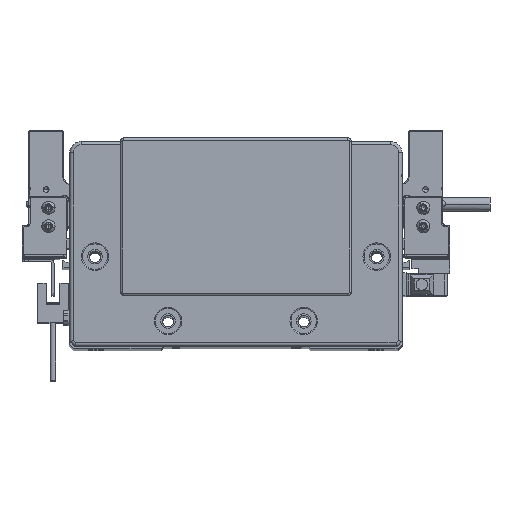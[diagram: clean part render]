
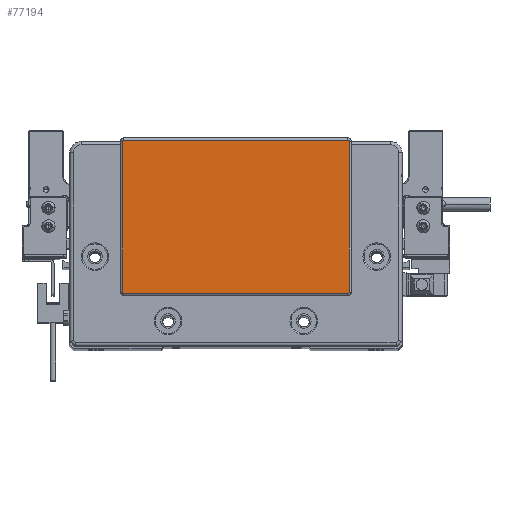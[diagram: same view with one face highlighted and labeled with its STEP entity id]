
A CAD part, top view. The second image highlights one B-rep face of the part: STEP entity #77194.
In plain terms, the highlighted planar face has unit normal (0, 0, 1) as drawn and (0, 0, -1) by its records, which use the part's own axes.
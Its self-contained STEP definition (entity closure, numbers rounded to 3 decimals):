
#2655 = AXIS2_PLACEMENT_3D ( 'NONE', #77965, #52548, #4621 ) ;
#2969 = ORIENTED_EDGE ( 'NONE', *, *, #17256, .T. ) ;
#3592 = ORIENTED_EDGE ( 'NONE', *, *, #47289, .T. ) ;
#3692 = CARTESIAN_POINT ( 'NONE',  ( 48.75, -21.8, -2. ) ) ;
#4512 = DIRECTION ( 'NONE',  ( 0., 0., -1. ) ) ;
#4621 = DIRECTION ( 'NONE',  ( -1., 0., 0. ) ) ;
#5098 = EDGE_CURVE ( 'NONE', #29373, #45290, #62974, .T. ) ;
#5353 = CIRCLE ( 'NONE', #77420, 0.5 ) ;
#5782 = ORIENTED_EDGE ( 'NONE', *, *, #16629, .T. ) ;
#7762 = CARTESIAN_POINT ( 'NONE',  ( 49.25, -21.8, -2. ) ) ;
#10603 = EDGE_CURVE ( 'NONE', #33725, #62388, #22481, .T. ) ;
#11076 = ORIENTED_EDGE ( 'NONE', *, *, #74472, .T. ) ;
#11573 = CARTESIAN_POINT ( 'NONE',  ( -48.75, 43.8, -2. ) ) ;
#15946 = CARTESIAN_POINT ( 'NONE',  ( 48.75, -22.3, -2. ) ) ;
#16613 = DIRECTION ( 'NONE',  ( 0., 1., 0. ) ) ;
#16629 = EDGE_CURVE ( 'NONE', #56163, #70928, #38529, .T. ) ;
#16928 = CARTESIAN_POINT ( 'NONE',  ( 49.25, 43.8, -2. ) ) ;
#16938 = AXIS2_PLACEMENT_3D ( 'NONE', #50091, #54937, #79535 ) ;
#17256 = EDGE_CURVE ( 'NONE', #27322, #46051, #60154, .T. ) ;
#19075 = AXIS2_PLACEMENT_3D ( 'NONE', #77665, #22454, #58334 ) ;
#19202 = CARTESIAN_POINT ( 'NONE',  ( -49.25, -21.8, -2. ) ) ;
#22454 = DIRECTION ( 'NONE',  ( 0., 0., -1. ) ) ;
#22481 = LINE ( 'NONE', #65587, #54196 ) ;
#22879 = DIRECTION ( 'NONE',  ( 1., 0., 0. ) ) ;
#26854 = ORIENTED_EDGE ( 'NONE', *, *, #50024, .T. ) ;
#27322 = VERTEX_POINT ( 'NONE', #19202 ) ;
#27602 = CARTESIAN_POINT ( 'NONE',  ( -48.75, -22.3, -2. ) ) ;
#29373 = VERTEX_POINT ( 'NONE', #16928 ) ;
#29502 = CARTESIAN_POINT ( 'NONE',  ( -49.25, 43.8, -2. ) ) ;
#31571 = CARTESIAN_POINT ( 'NONE',  ( -48.75, 44.3, -2. ) ) ;
#31972 = CIRCLE ( 'NONE', #19075, 0.5 ) ;
#33725 = VERTEX_POINT ( 'NONE', #31571 ) ;
#35228 = PLANE ( 'NONE',  #2655 ) ;
#37738 = DIRECTION ( 'NONE',  ( -1., 0., 0. ) ) ;
#38529 = LINE ( 'NONE', #56656, #75346 ) ;
#39555 = CARTESIAN_POINT ( 'NONE',  ( -49.25, 43.8, -2. ) ) ;
#41171 = AXIS2_PLACEMENT_3D ( 'NONE', #3692, #4512, #54030 ) ;
#45290 = VERTEX_POINT ( 'NONE', #7762 ) ;
#45819 = CARTESIAN_POINT ( 'NONE',  ( 48.75, 44.3, -2. ) ) ;
#46051 = VERTEX_POINT ( 'NONE', #39555 ) ;
#47289 = EDGE_CURVE ( 'NONE', #45290, #56163, #74659, .T. ) ;
#50024 = EDGE_CURVE ( 'NONE', #70928, #27322, #66011, .T. ) ;
#50091 = CARTESIAN_POINT ( 'NONE',  ( -48.75, -21.8, -2. ) ) ;
#50897 = CARTESIAN_POINT ( 'NONE',  ( 49.25, -21.8, -2. ) ) ;
#51884 = VECTOR ( 'NONE', #16613, 1000. ) ;
#52548 = DIRECTION ( 'NONE',  ( 0., 0., -1. ) ) ;
#54030 = DIRECTION ( 'NONE',  ( -1., 0., 0. ) ) ;
#54196 = VECTOR ( 'NONE', #22879, 1000. ) ;
#54937 = DIRECTION ( 'NONE',  ( 0., 0., -1. ) ) ;
#56163 = VERTEX_POINT ( 'NONE', #15946 ) ;
#56656 = CARTESIAN_POINT ( 'NONE',  ( -48.75, -22.3, -2. ) ) ;
#56717 = ORIENTED_EDGE ( 'NONE', *, *, #68052, .T. ) ;
#58334 = DIRECTION ( 'NONE',  ( -1., 0., 0. ) ) ;
#60154 = LINE ( 'NONE', #29502, #51884 ) ;
#61746 = EDGE_LOOP ( 'NONE', ( #72202, #3592, #5782, #26854, #2969, #56717, #71554, #11076 ) ) ;
#62388 = VERTEX_POINT ( 'NONE', #45819 ) ;
#62974 = LINE ( 'NONE', #50897, #73696 ) ;
#65062 = FACE_OUTER_BOUND ( 'NONE', #61746, .T. ) ;
#65587 = CARTESIAN_POINT ( 'NONE',  ( 48.75, 44.3, -2. ) ) ;
#66011 = CIRCLE ( 'NONE', #16938, 0.5 ) ;
#66763 = DIRECTION ( 'NONE',  ( 0., 0., -1. ) ) ;
#68052 = EDGE_CURVE ( 'NONE', #46051, #33725, #5353, .T. ) ;
#70589 = DIRECTION ( 'NONE',  ( 0., -1., 0. ) ) ;
#70928 = VERTEX_POINT ( 'NONE', #27602 ) ;
#71554 = ORIENTED_EDGE ( 'NONE', *, *, #10603, .T. ) ;
#72202 = ORIENTED_EDGE ( 'NONE', *, *, #5098, .T. ) ;
#73696 = VECTOR ( 'NONE', #70589, 1000. ) ;
#74028 = DIRECTION ( 'NONE',  ( -1., 0., 0. ) ) ;
#74472 = EDGE_CURVE ( 'NONE', #62388, #29373, #31972, .T. ) ;
#74659 = CIRCLE ( 'NONE', #41171, 0.5 ) ;
#75346 = VECTOR ( 'NONE', #74028, 1000. ) ;
#77194 = ADVANCED_FACE ( 'NONE', ( #65062 ), #35228, .T. ) ;
#77420 = AXIS2_PLACEMENT_3D ( 'NONE', #11573, #66763, #37738 ) ;
#77665 = CARTESIAN_POINT ( 'NONE',  ( 48.75, 43.8, -2. ) ) ;
#77965 = CARTESIAN_POINT ( 'NONE',  ( 0., 0., -2. ) ) ;
#79535 = DIRECTION ( 'NONE',  ( -1., 0., 0. ) ) ;
